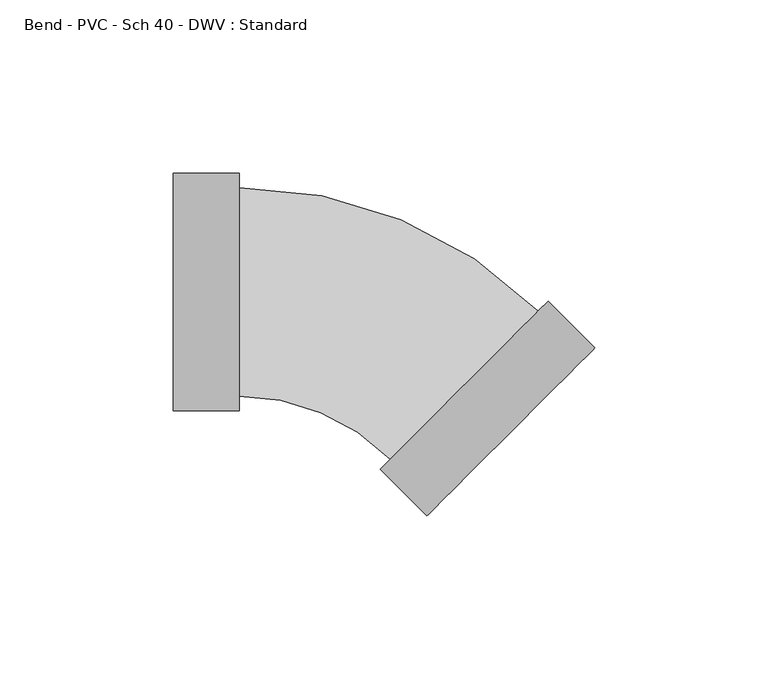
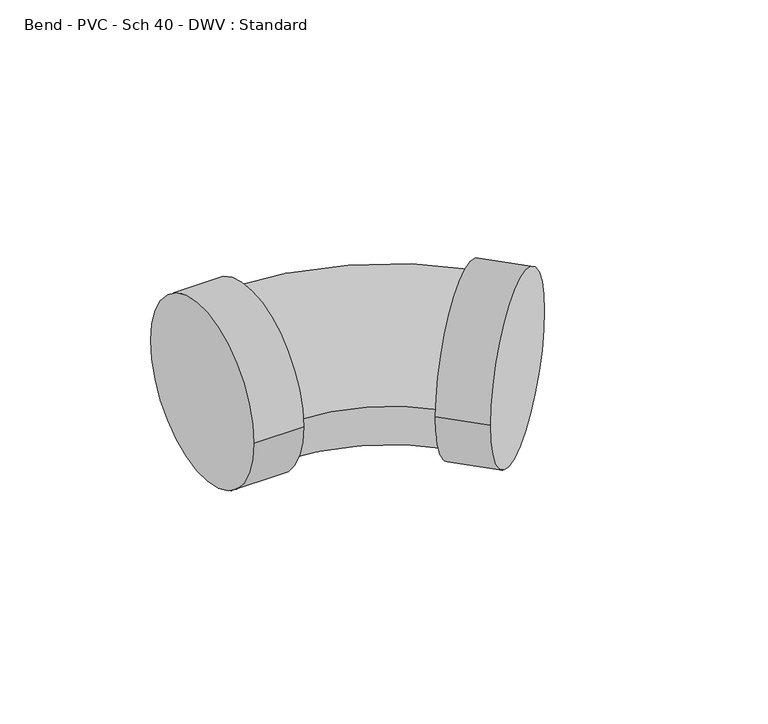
"""IFC4 building model written with IfcOpenShell, lengths in millimetres: pipe fitting geometry, Bend - PVC - Sch 40 - DWV : Standard."""

from ifc_helpers import new_model, si_unit, point, frame, origin, place, context, project, spatial, circle_curve, ellipse_curve, trimmed, source, transform, mapped, element, save
from ifc_brep_helpers import plane_surface, cylinder_surface, revolved_surface, advanced_brep


def bend_pvc_sch_40_dwv_standard_577ceb7d(model_context):
    return source(origin(), model_context, "Body", "AdvancedBrep", [
        advanced_brep(
        [(-57.15, 34.3154, 0.0), (-57.15, -34.3154, 0.0), (-38.1, 34.3154, 0.0), (-38.1, -34.3154, 0.0), (-38.1, 30.1625, 0.0), (-38.1, -30.1625, 0.0), (5.6148293, -48.2686244, 0.0), (48.2691288, -5.6104908, 0.0), (51.2055406, -2.6738151, 0.0), (2.6784176, -51.2053001, 0.0), (64.6765302, -16.1435939, 0.0), (16.1494071, -64.6750789, 0.0)],
        [
            (0, 1, circle_curve(frame((-57.15, 0.0, 0.0), z_axis=(-1.0, 0.0, 0.0), x_axis=(0.0, -1.0, 0.0)), 34.3154)),
            (1, 0, circle_curve(frame((-57.15, 0.0, 0.0), z_axis=(-1.0, 0.0, 0.0), x_axis=(0.0, -1.0, 0.0)), 34.3154)),
            (2, 3, circle_curve(frame((-38.1, 0.0, 0.0), z_axis=(1.0, 0.0, 0.0), x_axis=(0.0, -1.0, 0.0)), 34.3154)),
            (3, 2, circle_curve(frame((-38.1, 0.0, 0.0), z_axis=(1.0, 0.0, 0.0), x_axis=(0.0, -1.0, 0.0)), 34.3154)),
            (4, 5, circle_curve(frame((-38.1, 0.0, 0.0), z_axis=(-1.0, 0.0, 0.0), x_axis=(0.0, -1.0, 0.0)), 30.1625)),
            (5, 4, circle_curve(frame((-38.1, 0.0, 0.0), z_axis=(-1.0, 0.0, 0.0), x_axis=(0.0, -1.0, 0.0)), 30.1625)),
            (1, 3),
            (2, 0),
            (6, 7, circle_curve(frame((26.9419791, -26.9395576, 0.0), z_axis=(-0.7071385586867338, 0.7070750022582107, 0.0), x_axis=(-0.7070750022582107, -0.7071385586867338, 0.0)), 30.1625)),
            (7, 4, circle_curve(frame((-38.1, -91.9873831, 0.0), z_axis=(0.0, 0.0, 1.0), x_axis=(0.0, 1.0, 0.0)), 122.1498831)),
            (5, 6, circle_curve(frame((-38.1, -91.9873831, 0.0), z_axis=(0.0, 0.0, -1.0), x_axis=(0.0, 1.0, 0.0)), 61.8248831)),
            (7, 6, circle_curve(frame((26.9419791, -26.9395576, 0.0), z_axis=(-0.7071385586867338, 0.7070750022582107, 0.0), x_axis=(-0.7070750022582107, -0.7071385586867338, 0.0)), 30.1625)),
            (8, 9, circle_curve(frame((26.9419791, -26.9395576, 0.0), z_axis=(-0.7071385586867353, 0.7070750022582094, 0.0), x_axis=(-0.7070750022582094, -0.7071385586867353, 0.0)), 34.3154)),
            (9, 8, circle_curve(frame((26.9419791, -26.9395576, 0.0), z_axis=(-0.7071385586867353, 0.7070750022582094, 0.0), x_axis=(-0.7070750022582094, -0.7071385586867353, 0.0)), 34.3154)),
            (10, 11, circle_curve(frame((40.4129686, -40.4093364, 0.0), z_axis=(0.7071385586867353, -0.7070750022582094, 0.0), x_axis=(-0.7070750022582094, -0.7071385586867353, 0.0)), 34.3154)),
            (11, 10, circle_curve(frame((40.4129686, -40.4093364, 0.0), z_axis=(0.7071385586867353, -0.7070750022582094, 0.0), x_axis=(-0.7070750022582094, -0.7071385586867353, 0.0)), 34.3154)),
            (9, 11),
            (10, 8),
        ],
        [
            plane_surface(frame((-57.15, 0.0, 0.0), z_axis=(-1.0, 0.0, 0.0), x_axis=(0.0, 0.0, 1.0))),
            plane_surface(frame((-38.1, 0.0, 0.0), z_axis=(1.0, 0.0, 0.0), x_axis=(0.0, 0.0, 1.0))),
            cylinder_surface(frame((-57.15, 0.0, 0.0), z_axis=(-1.0, 0.0, 0.0), x_axis=(0.0, -1.0, 0.0)), 34.3154),
            revolved_surface(trimmed(ellipse_curve(frame((-38.1, 0.0, 0.0), z_axis=(1.0, 0.0, 0.0), x_axis=(0.0, -1.0, 0.0)), 30.1625, 30.1625), [point((-38.1, 30.1625, 0.0))], [point((-38.1, -30.1625, 0.0))], True, "CARTESIAN"), (-38.1, -91.9873831, 0.0), (0.0, 0.0, 1.0)),
            revolved_surface(trimmed(ellipse_curve(frame((-38.1, 0.0, 0.0), z_axis=(1.0, 0.0, 0.0), x_axis=(0.0, -1.0, 0.0)), 30.1625, 30.1625), [point((-38.1, -30.1625, 0.0))], [point((-38.1, 30.1625, 0.0))], True, "CARTESIAN"), (-38.1, -91.9873831, 0.0), (0.0, 0.0, 1.0)),
            plane_surface(frame((26.9419791, -26.9395576, 0.0), z_axis=(-0.7071385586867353, 0.7070750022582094, 0.0), x_axis=(0.0, 0.0, 1.0))),
            plane_surface(frame((40.4129686, -40.4093364, 0.0), z_axis=(0.7071385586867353, -0.7070750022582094, 0.0), x_axis=(0.0, 0.0, 1.0))),
            cylinder_surface(frame((26.9419791, -26.9395576, 0.0), z_axis=(-0.7071385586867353, 0.7070750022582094, 0.0), x_axis=(-0.7070750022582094, -0.7071385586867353, 0.0)), 34.3154),
        ],
        [
            (0, [[1, 2]]),
            (1, [[3, 4], [5, 6]]),
            (2, [[7, -3, 8, -2]]),
            (2, [[-8, -4, -7, -1]]),
            (3, [[9, 10, -6, 11]]),
            (4, [[-5, -10, 12, -11]]),
            (5, [[13, 14], [-12, -9]]),
            (6, [[15, 16]]),
            (7, [[17, -15, 18, -14]]),
            (7, [[-18, -16, -17, -13]]),
        ],
    ),
    ])


if __name__ == "__main__":
    model = new_model("IFC4")
    model_context = context("Model", 3, world=origin())
    ifc_project = project(units=[si_unit("LENGTHUNIT", "METRE", prefix="MILLI")], contexts=[model_context])
    site = spatial("IfcSite", under=ifc_project)
    building = spatial("IfcBuilding", under=site)
    placement = place(None, origin())
    bend_pvc_sch_40_dwv_standard_shape = bend_pvc_sch_40_dwv_standard_577ceb7d(model_context)
    element("IfcPipeFitting", 1, ObjectType="Bend - PVC - Sch 40 - DWV : Standard", at=placement, inside=building, context=model_context, shape_type="MappedRepresentation", body=[
        mapped(bend_pvc_sch_40_dwv_standard_shape, transform((0.0, 0.0, 0.0), x_axis=(1.0, 0.0, 0.0), y_axis=(0.0, 1.0, 0.0), z_axis=(0.0, 0.0, 1.0))),
    ])
    save(model, "model.ifc")
